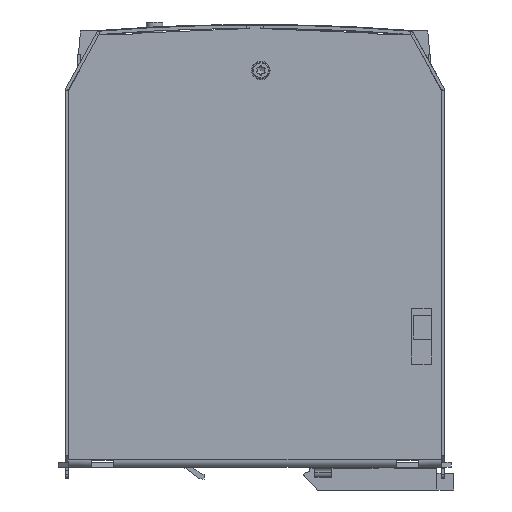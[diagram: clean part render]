
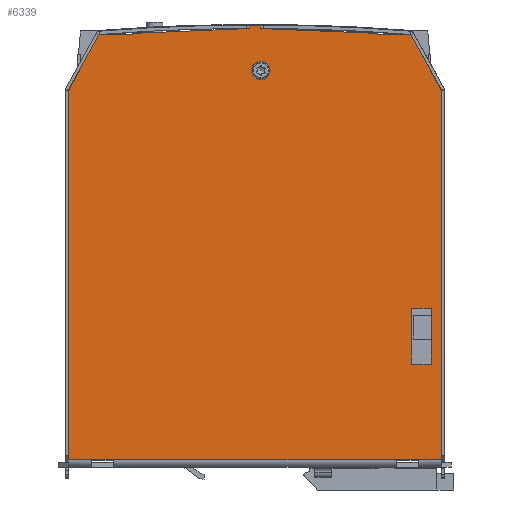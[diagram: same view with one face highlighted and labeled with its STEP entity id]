
A CAD part, left-side view. The second image highlights one B-rep face of the part: STEP entity #6339.
In plain terms, the highlighted planar face has unit normal (-1, 0, 0).
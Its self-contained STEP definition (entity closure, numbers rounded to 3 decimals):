
#161=CARTESIAN_POINT('',(-36.,-47.,31.0));
#162=VERTEX_POINT('',#161);
#169=CARTESIAN_POINT('',(-36.,-53.,31.));
#170=VERTEX_POINT('',#169);
#171=CARTESIAN_POINT('',(-36.,-53.,31.));
#172=DIRECTION('',(0.0,1.0,0.0));
#173=VECTOR('',#172,6.);
#174=LINE('',#171,#173);
#175=EDGE_CURVE('',#170,#162,#174,.T.);
#200=CARTESIAN_POINT('',(-36.,-53.,47.8));
#201=VERTEX_POINT('',#200);
#202=CARTESIAN_POINT('',(-36.,-53.,47.8));
#203=DIRECTION('',(0.0,0.0,-1.0));
#204=VECTOR('',#203,16.8);
#205=LINE('',#202,#204);
#206=EDGE_CURVE('',#201,#170,#205,.T.);
#231=CARTESIAN_POINT('',(-36.,-47.,47.8));
#232=VERTEX_POINT('',#231);
#233=CARTESIAN_POINT('',(-36.,-47.,47.8));
#234=DIRECTION('',(0.0,-1.0,0.0));
#235=VECTOR('',#234,6.);
#236=LINE('',#233,#235);
#237=EDGE_CURVE('',#232,#201,#236,.T.);
#260=CARTESIAN_POINT('',(-36.,-47.,31.0));
#261=DIRECTION('',(0.0,0.0,1.0));
#262=VECTOR('',#261,16.8);
#263=LINE('',#260,#262);
#264=EDGE_CURVE('',#162,#232,#263,.T.);
#417=CARTESIAN_POINT('',(-36.,-36.8,130.321));
#418=VERTEX_POINT('',#417);
#427=CARTESIAN_POINT('',(-36.,-36.8,129.9));
#428=VERTEX_POINT('',#427);
#429=CARTESIAN_POINT('',(-36.,-36.8,129.9));
#430=DIRECTION('',(0.0,0.0,1.0));
#431=VECTOR('',#430,0.421);
#432=LINE('',#429,#431);
#433=EDGE_CURVE('',#428,#418,#432,.T.);
#457=CARTESIAN_POINT('',(-36.,-46.8,129.9));
#458=VERTEX_POINT('',#457);
#459=CARTESIAN_POINT('',(-36.,-46.8,129.9));
#460=DIRECTION('',(0.0,1.0,0.0));
#461=VECTOR('',#460,10.);
#462=LINE('',#459,#461);
#463=EDGE_CURVE('',#458,#428,#462,.T.);
#490=CARTESIAN_POINT('',(-36.,36.8,130.321));
#491=VERTEX_POINT('',#490);
#506=CARTESIAN_POINT('',(-36.,36.8,129.9));
#507=VERTEX_POINT('',#506);
#514=CARTESIAN_POINT('',(-36.,36.8,130.321));
#515=DIRECTION('',(0.0,0.0,-1.0));
#516=VECTOR('',#515,0.421);
#517=LINE('',#514,#516);
#518=EDGE_CURVE('',#491,#507,#517,.T.);
#528=CARTESIAN_POINT('',(-36.,46.8,129.9));
#529=VERTEX_POINT('',#528);
#530=CARTESIAN_POINT('',(-36.,36.8,129.9));
#531=DIRECTION('',(0.0,1.0,0.0));
#532=VECTOR('',#531,10.);
#533=LINE('',#530,#532);
#534=EDGE_CURVE('',#507,#529,#533,.T.);
#808=CARTESIAN_POINT('',(-36.,1.7,131.8));
#809=VERTEX_POINT('',#808);
#810=CARTESIAN_POINT('',(-36.,1.7,131.8));
#811=DIRECTION('',(0.0,0.999,-0.042));
#812=VECTOR('',#811,35.131);
#813=LINE('',#810,#812);
#814=EDGE_CURVE('',#809,#491,#813,.T.);
#5659=CARTESIAN_POINT('',(-36.,-1.8,120.85));
#5660=VERTEX_POINT('',#5659);
#5661=CARTESIAN_POINT('',(-36.,-1.8,119.2));
#5662=DIRECTION('',(1.0,0.0,0.0));
#5663=DIRECTION('',(0.0,0.0,1.0));
#5664=AXIS2_PLACEMENT_3D('',#5661,#5662,#5663);
#5665=CIRCLE('',#5664,1.65);
#5666=EDGE_CURVE('',#5660,#5660,#5665,.T.);
#6003=CARTESIAN_POINT('',(-36.,56.,113.3));
#6004=VERTEX_POINT('',#6003);
#6011=CARTESIAN_POINT('',(-36.,46.8,129.9));
#6012=DIRECTION('',(0.,0.485,-0.875));
#6013=VECTOR('',#6012,18.979);
#6014=LINE('',#6011,#6013);
#6015=EDGE_CURVE('',#529,#6004,#6014,.T.);
#6028=CARTESIAN_POINT('',(-36.,1.7,132.7));
#6029=VERTEX_POINT('',#6028);
#6030=CARTESIAN_POINT('',(-36.,1.7,132.7));
#6031=DIRECTION('',(0.0,0.0,-1.0));
#6032=VECTOR('',#6031,0.9);
#6033=LINE('',#6030,#6032);
#6034=EDGE_CURVE('',#6029,#809,#6033,.T.);
#6051=CARTESIAN_POINT('',(-36.,-1.7,132.7));
#6052=VERTEX_POINT('',#6051);
#6059=CARTESIAN_POINT('',(-36.,-1.7,131.8));
#6060=VERTEX_POINT('',#6059);
#6061=CARTESIAN_POINT('',(-36.,-1.7,131.8));
#6062=DIRECTION('',(0.0,0.0,1.0));
#6063=VECTOR('',#6062,0.9);
#6064=LINE('',#6061,#6063);
#6065=EDGE_CURVE('',#6060,#6052,#6064,.T.);
#6084=CARTESIAN_POINT('',(-36.,-36.8,130.321));
#6085=DIRECTION('',(0.,0.999,0.042));
#6086=VECTOR('',#6085,35.131);
#6087=LINE('',#6084,#6086);
#6088=EDGE_CURVE('',#418,#6060,#6087,.T.);
#6100=CARTESIAN_POINT('',(-36.,-56.,113.3));
#6101=VERTEX_POINT('',#6100);
#6102=CARTESIAN_POINT('',(-36.,-56.,113.3));
#6103=DIRECTION('',(0.,0.485,0.875));
#6104=VECTOR('',#6103,18.979);
#6105=LINE('',#6102,#6104);
#6106=EDGE_CURVE('',#6101,#458,#6105,.T.);
#6130=CARTESIAN_POINT('',(-36.0,56.,2.25));
#6131=VERTEX_POINT('',#6130);
#6154=CARTESIAN_POINT('',(-36.,1.7,132.7));
#6155=DIRECTION('',(0.0,-1.0,0.0));
#6156=VECTOR('',#6155,3.4);
#6157=LINE('',#6154,#6156);
#6158=EDGE_CURVE('',#6029,#6052,#6157,.T.);
#6171=CARTESIAN_POINT('',(-36.0,-56.,2.25));
#6172=VERTEX_POINT('',#6171);
#6173=CARTESIAN_POINT('',(-36.,-56.,113.3));
#6174=DIRECTION('',(0.0,0.0,-1.0));
#6175=VECTOR('',#6174,111.05);
#6176=LINE('',#6173,#6175);
#6177=EDGE_CURVE('',#6101,#6172,#6176,.T.);
#6225=CARTESIAN_POINT('',(-36.0,56.,2.25));
#6226=DIRECTION('',(0.0,-1.0,0.0));
#6227=VECTOR('',#6226,112.);
#6228=LINE('',#6225,#6227);
#6229=EDGE_CURVE('',#6131,#6172,#6228,.T.);
#6300=CARTESIAN_POINT('',(-36.0,56.,2.25));
#6301=DIRECTION('',(0.0,0.0,1.0));
#6302=VECTOR('',#6301,111.05);
#6303=LINE('',#6300,#6302);
#6304=EDGE_CURVE('',#6131,#6004,#6303,.T.);
#6309=CARTESIAN_POINT('',(-36.,0.0,-33.715));
#6310=DIRECTION('',(1.0,0.0,0.0));
#6311=DIRECTION('',(0.0,1.0,0.0));
#6312=AXIS2_PLACEMENT_3D('',#6309,#6310,#6311);
#6313=PLANE('',#6312);
#6314=ORIENTED_EDGE('',*,*,#433,.T.);
#6315=ORIENTED_EDGE('',*,*,#6088,.T.);
#6316=ORIENTED_EDGE('',*,*,#6065,.T.);
#6317=ORIENTED_EDGE('',*,*,#6158,.F.);
#6318=ORIENTED_EDGE('',*,*,#6034,.T.);
#6319=ORIENTED_EDGE('',*,*,#814,.T.);
#6320=ORIENTED_EDGE('',*,*,#518,.T.);
#6321=ORIENTED_EDGE('',*,*,#534,.T.);
#6322=ORIENTED_EDGE('',*,*,#6015,.T.);
#6323=ORIENTED_EDGE('',*,*,#6304,.F.);
#6324=ORIENTED_EDGE('',*,*,#6229,.T.);
#6325=ORIENTED_EDGE('',*,*,#6177,.F.);
#6326=ORIENTED_EDGE('',*,*,#6106,.T.);
#6327=ORIENTED_EDGE('',*,*,#463,.T.);
#6328=EDGE_LOOP('',(#6314,#6315,#6316,#6317,#6318,#6319,#6320,#6321,#6322,#6323,#6324,#6325,#6326,#6327));
#6329=FACE_OUTER_BOUND('',#6328,.T.);
#6330=ORIENTED_EDGE('',*,*,#175,.T.);
#6331=ORIENTED_EDGE('',*,*,#264,.T.);
#6332=ORIENTED_EDGE('',*,*,#237,.T.);
#6333=ORIENTED_EDGE('',*,*,#206,.T.);
#6334=EDGE_LOOP('',(#6330,#6331,#6332,#6333));
#6335=FACE_BOUND('',#6334,.T.);
#6336=ORIENTED_EDGE('',*,*,#5666,.T.);
#6337=EDGE_LOOP('',(#6336));
#6338=FACE_BOUND('',#6337,.T.);
#6339=ADVANCED_FACE('',(#6329,#6335,#6338),#6313,.F.);
